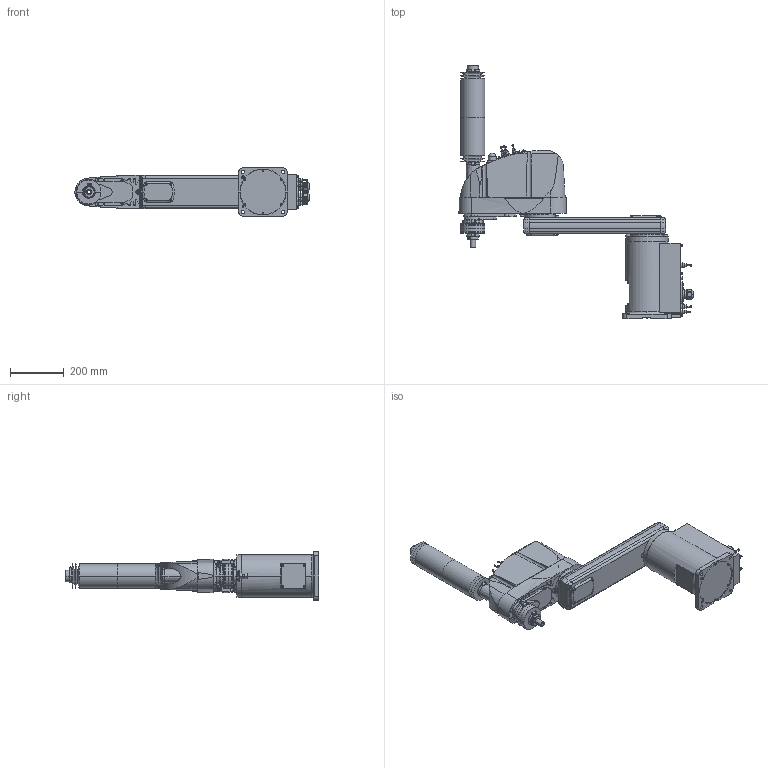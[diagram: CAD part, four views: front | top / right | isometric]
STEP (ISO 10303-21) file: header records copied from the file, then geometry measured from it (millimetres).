
FILE_DESCRIPTION( ( '' ), '1' );
FILE_NAME( '//expscmdclustefs.cadenas.external/client_exchange/iodir/jobs/output/wkb51544356_no0/STEP/G6_653P_2_14b.stp', '2012-11-23T12:16:28', ( '' ), ( '' ), ' ', ' ', ' ' );
FILE_SCHEMA( ( 'automotive_design' ) );
Length unit declared in the file: millimetre
Products named in the file (8): 1; 2; 3; 4; 5; 6; 7; 8
Bounding box: 874 x 945.5 x 180 mm (x, y, z)
Volume: 23217567.1 mm3; surface area: 1187962.8 mm2
Topology: 8 solids, 8 shells, 1811 faces, 4351 edges, 2767 vertices
Faces by surface type: plane 860, cylinder 628, cone 282, torus 40, sphere 1
Entity records: 106101 total; most frequent: CARTESIAN_POINT 12922, DIRECTION 9320, STYLED_ITEM 8907, PRESENTATION_STYLE_ASSIGNMENT 8907, COLOUR_RGB 8907, ORIENTED_EDGE 8642, EDGE_CURVE 4321, CURVE_STYLE 4321
